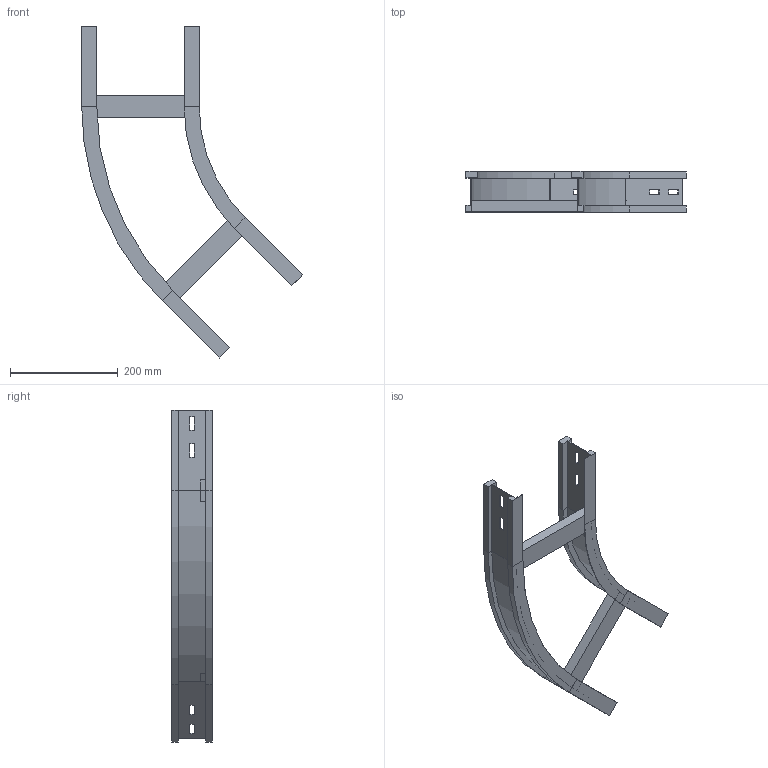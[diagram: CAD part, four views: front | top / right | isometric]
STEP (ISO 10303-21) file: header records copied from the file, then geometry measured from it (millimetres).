
FILE_DESCRIPTION (( 'STEP AP214' ), '1' );
FILE_NAME ('11S3C200.step', '2025-02-21T16:05:21', ( '' ), ( '' ), 'SwSTEP 2.0', 'SolidWorks 2023', '' );
FILE_SCHEMA (( 'AUTOMOTIVE_DESIGN' ));
Length unit declared in the file: millimetre
Products named in the file (4): TRAVERSINO_200; 11S3C200; LONGH.INTERNO 45°_H75_R300; LONGH.ESTERNO 45°_H75_R300+200
Assembly tree (4 placements, depth 2):
  11S3C200
    LONGH.INTERNO 45°_H75_R300
    LONGH.ESTERNO 45°_H75_R300+200
    TRAVERSINO_200  x2
Bounding box: 409.3 x 75 x 615.98 mm (x, y, z)
Volume: 921694 mm3; surface area: 353495.7 mm2
Topology: 4 solids, 4 shells, 120 faces, 288 edges, 176 vertices
Faces by surface type: plane 108, cylinder 12
Entity records: 3381 total; most frequent: CARTESIAN_POINT 565, ORIENTED_EDGE 552, DIRECTION 542, EDGE_CURVE 276, LINE 252, VECTOR 252, VERTEX_POINT 168, AXIS2_PLACEMENT_3D 145
